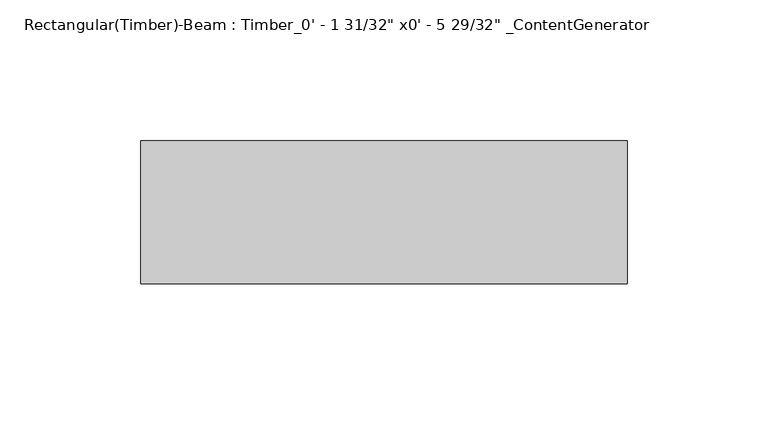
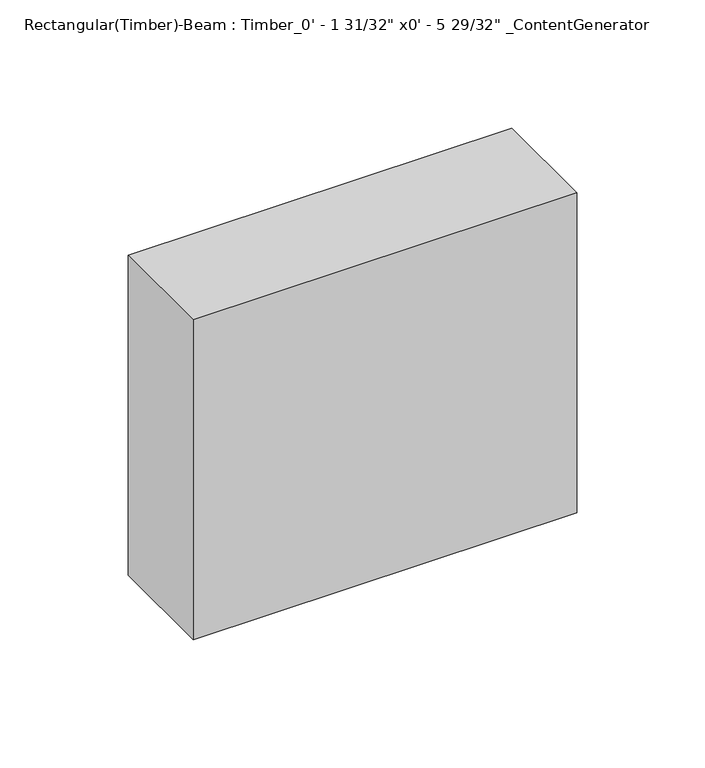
"""IFC4 building model written with IfcOpenShell, lengths in millimetres: beam geometry."""

from ifc_helpers import new_model, si_unit, frame, origin, place, context, project, spatial, polyline, outline, extrude, source, transform, mapped, element, save


def beam_45d9adf3(model_context):
    return source(origin(), model_context, "Body", "SweptSolid", [
        extrude(outline(polyline([(73.6600124, 25.4), (73.6600124, -25.4), (-99.0600118, -25.4), (-99.0600118, 25.4), (73.6600124, 25.4)])), frame((0.0, 0.0, -76.2), z_axis=(0.0, 0.0, 1.0), x_axis=(1.0, 0.0, 0.0)), (0.0, 0.0, 1.0), 152.4),
    ])


if __name__ == "__main__":
    model = new_model("IFC4")
    model_context = context("Model", 3, world=origin())
    ifc_project = project(units=[si_unit("LENGTHUNIT", "METRE", prefix="MILLI")], contexts=[model_context])
    site = spatial("IfcSite", under=ifc_project)
    building = spatial("IfcBuilding", under=site)
    placement = place(None, origin())
    beam_shape = beam_45d9adf3(model_context)
    element("IfcBeam", 1, ObjectType="Rectangular(Timber)-Beam : Timber_0' - 1 31/32\" x0' - 5 29/32\" _ContentGenerator", at=placement, inside=building, context=model_context, shape_type="MappedRepresentation", body=[
        mapped(beam_shape, transform((0.0, 0.0, 0.0), x_axis=(1.0, 0.0, 0.0), y_axis=(0.0, 1.0, 0.0), z_axis=(0.0, 0.0, 1.0))),
    ])
    save(model, "model.ifc")
